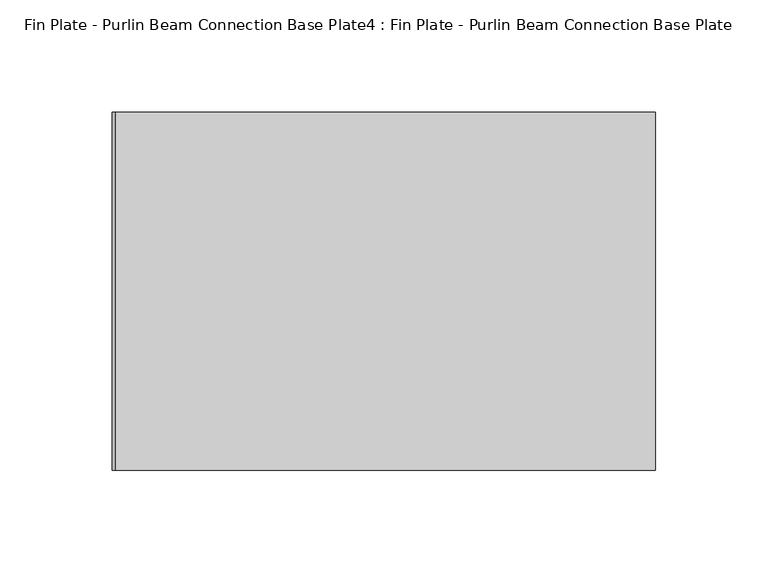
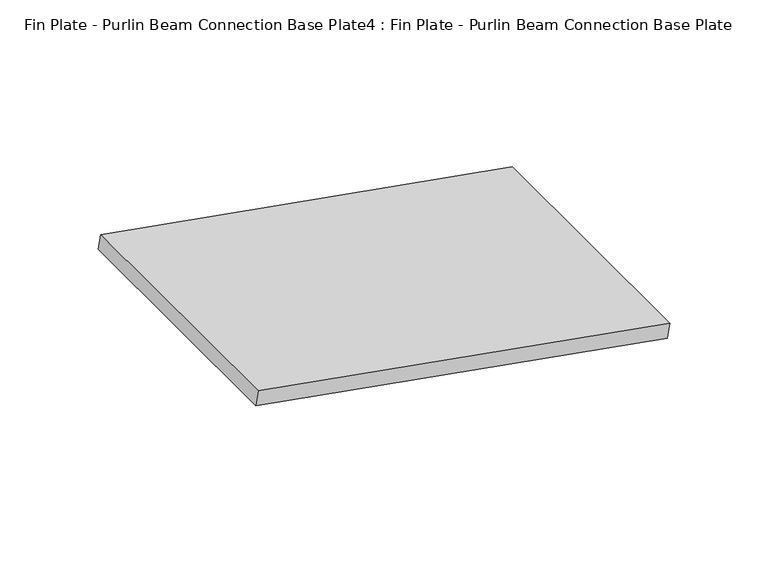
"""IFC4 building model written with IfcOpenShell, lengths in millimetres: proxy geometry, Fin Plate - Purlin Beam Connection Base Plate4 : Fin Plate - Purlin Beam Connection Base Plate."""

from ifc_helpers import new_model, si_unit, frame, origin, place, context, project, spatial, polyline, outline, extrude, source, transform, mapped, element, save


def fin_plate_purlin_beam_connection_base_plate4_fin_plate_a350485e(model_context):
    return source(origin(), model_context, "Body", "SweptSolid", [
        extrude(outline(polyline([(0.0, -160.0), (0.0, 0.0), (245.0, 0.0), (245.0, -160.0), (0.0, -160.0)])), frame((-31958.5886145, 15752.623117, 3241.7802983), z_axis=(0.1736481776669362, 0.0, 0.9848077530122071), x_axis=(0.9848077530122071, 0.0, -0.1736481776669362)), (0.0, 0.0, 1.0), 8.8039089),
    ])


if __name__ == "__main__":
    model = new_model("IFC4")
    model_context = context("Model", 3, world=origin())
    ifc_project = project(units=[si_unit("LENGTHUNIT", "METRE", prefix="MILLI")], contexts=[model_context])
    site = spatial("IfcSite", under=ifc_project)
    building = spatial("IfcBuilding", under=site)
    placement = place(None, origin())
    fin_plate_purlin_beam_connection_base_plate4_fin_plate_shape = fin_plate_purlin_beam_connection_base_plate4_fin_plate_a350485e(model_context)
    element("IfcBuildingElementProxy", 1, Name="Fin Plate - Purlin Beam Connection Base Plate4 : Fin Plate - Purlin Beam Connection Base Plate", ObjectType="Fin Plate - Purlin Beam Connection Base Plate4 : Fin Plate - Purlin Beam Connection Base Plate", at=placement, inside=building, context=model_context, shape_type="MappedRepresentation", body=[
        mapped(fin_plate_purlin_beam_connection_base_plate4_fin_plate_shape, transform((0.0, 0.0, 0.0), x_axis=(1.0, 0.0, 0.0), y_axis=(0.0, 1.0, 0.0), z_axis=(0.0, 0.0, 1.0))),
    ])
    save(model, "model.ifc")
